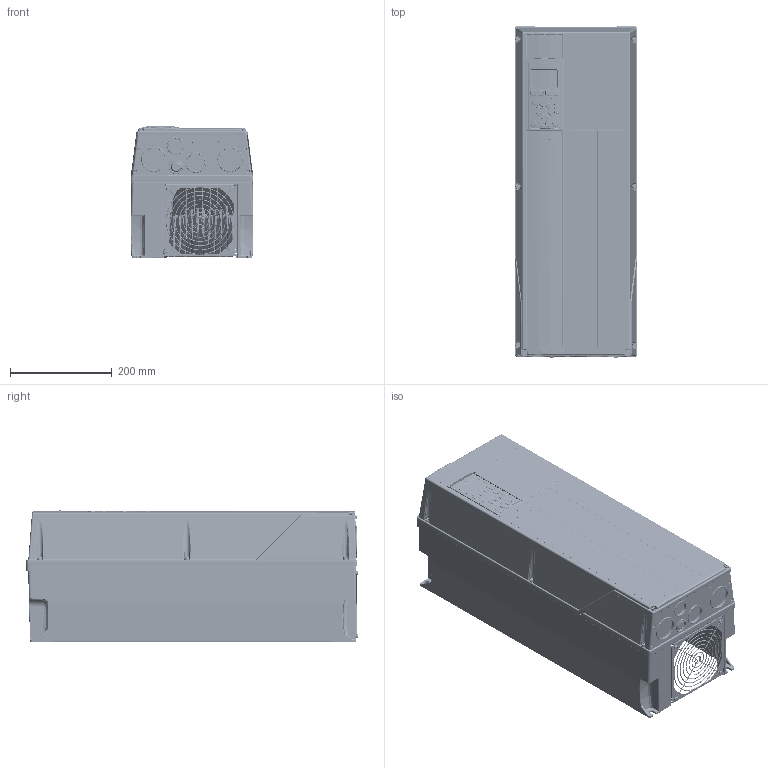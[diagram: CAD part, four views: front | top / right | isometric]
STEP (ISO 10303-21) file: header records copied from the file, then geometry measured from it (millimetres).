
FILE_DESCRIPTION((''),'2;1');
FILE_NAME('DANFOSS-FC300-B2','2011-11-11T',('cstephenkumar'),('Be-Atch INC. 1993'),'PRO/ENGINEER BY PARAMETRIC TECHNOLOGY CORPORATION, 2009360','PRO/ENGINEER BY PARAMETRIC TECHNOLOGY CORPORATION, 2009360','');
FILE_SCHEMA(('AUTOMOTIVE_DESIGN { 1 0 10303 214 1 1 1 1 }'));
Products named in the file (1): DANFOSS-FC300-B2
Bounding box: 242 x 653.31 x 260.7 mm (x, y, z)
Volume: 26507522.4 mm3; surface area: 2592147.9 mm2
Topology: 1 solids, 19 shells, 6954 faces, 17266 edges, 10410 vertices
Faces by surface type: cylinder 2401, plane 1877, bspline 1860, torus 388, cone 189, sphere 132, extrusion 107
Entity records: 320963 total; most frequent: CARTESIAN_POINT 170653, ORIENTED_EDGE 34394, DIRECTION 26070, EDGE_CURVE 17197, VERTEX_POINT 10410, AXIS2_PLACEMENT_3D 9324, VECTOR 7422, LINE 7315
